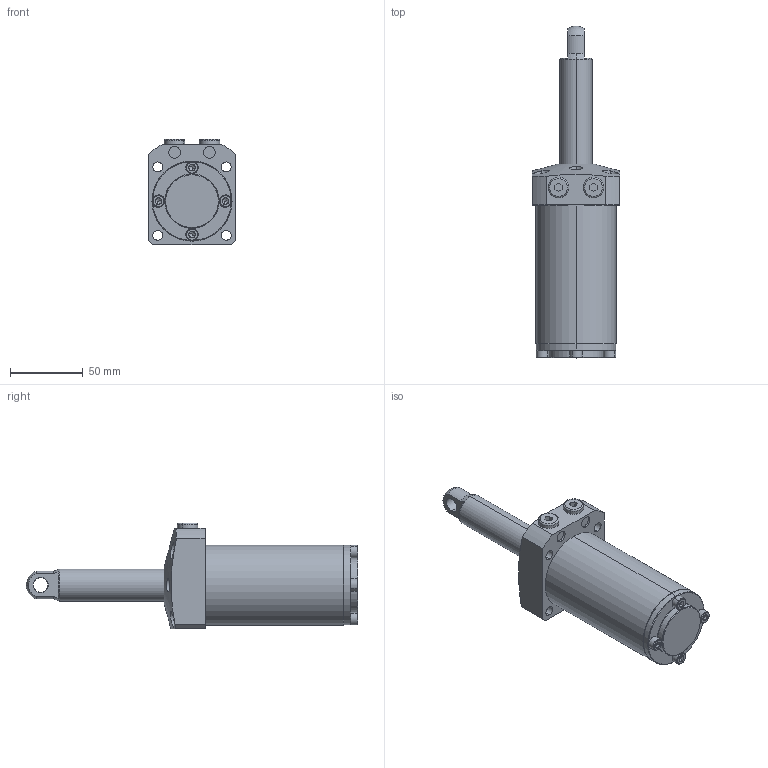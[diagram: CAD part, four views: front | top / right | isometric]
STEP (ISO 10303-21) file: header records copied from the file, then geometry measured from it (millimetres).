
FILE_DESCRIPTION (( 'STEP AP203' ), '1' );
FILE_NAME ('680550-CP-076.step', '2016-11-02T03:23:34', ( 'wxp' ), ( '' ), 'SwSTEP 2.0', 'SolidWorks 2011', '' );
FILE_SCHEMA (( 'CONFIG_CONTROL_DESIGN' ));
Length unit declared in the file: millimetre
Products named in the file (7): 葩璃 68055-CA-51-4^680550-CP-076; 葩璃 68055-CA-51-3^680550-CP-076; 葩璃 68055-CA-51-1^680550-CP-076; 680550-CP-076; 葩璃 680550-15-13^680550-CP-076; 葩璃 68055-CA-51-6^680550-CP-076; 葩璃 68055-CA-51-5^680550-CP-076
Assembly tree (13 placements, depth 2):
  680550-CP-076
    葩璃 68055-CA-51-5^680550-CP-076  x4
    葩璃 68055-CA-51-6^680550-CP-076  x2
    葩璃 68055-CA-51-1^680550-CP-076
    葩璃 68055-CA-51-4^680550-CP-076  x4
    葩璃 68055-CA-51-3^680550-CP-076
    葩璃 680550-15-13^680550-CP-076
Bounding box: 60 x 228 x 72.5 mm (x, y, z)
Volume: 344367.4 mm3; surface area: 58601.8 mm2
Topology: 13 solids, 13 shells, 412 faces, 794 edges, 426 vertices
Faces by surface type: plane 171, cone 120, cylinder 103, torus 16, sphere 2
Entity records: 6941 total; most frequent: CARTESIAN_POINT 1645, DIRECTION 1011, ORIENTED_EDGE 824, AXIS2_PLACEMENT_3D 423, EDGE_CURVE 412, VERTEX_POINT 244, EDGE_LOOP 238, CIRCLE 207
